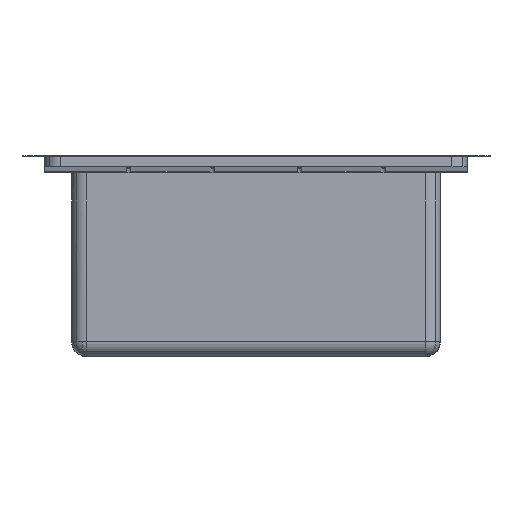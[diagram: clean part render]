
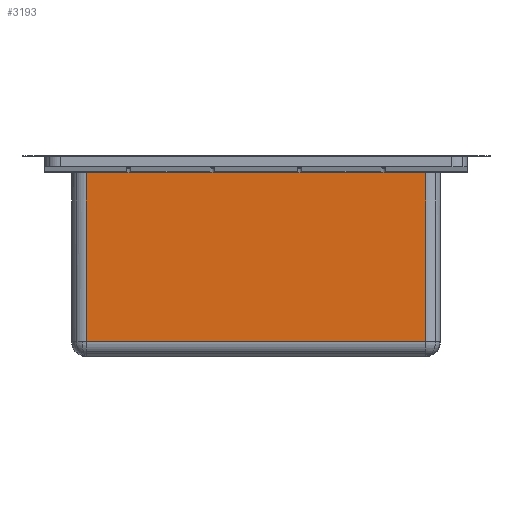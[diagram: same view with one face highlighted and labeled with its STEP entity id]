
A CAD part, left-side view. The second image highlights one B-rep face of the part: STEP entity #3193.
In plain terms, the highlighted planar face has unit normal (-1, 0, 0).
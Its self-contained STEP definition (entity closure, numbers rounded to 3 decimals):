
#2808=CARTESIAN_POINT('Line Origine',(-1529.582,11.709,1.2)) ;
#2812=CARTESIAN_POINT('Vertex',(-1529.582,-173.291,1.2)) ;
#2814=CARTESIAN_POINT('Vertex',(-1529.582,196.709,1.2)) ;
#3101=CARTESIAN_POINT('Vertex',(-1529.582,-173.291,-182.8)) ;
#3109=CARTESIAN_POINT('Line Origine',(-1529.582,-173.291,-98.8)) ;
#3170=CARTESIAN_POINT('Axis2P3D Location',(-1529.582,196.709,1.2)) ;
#3175=CARTESIAN_POINT('Line Origine',(-1529.582,11.709,-182.8)) ;
#3179=CARTESIAN_POINT('Vertex',(-1529.582,196.709,-182.8)) ;
#3182=CARTESIAN_POINT('Line Origine',(-1529.582,196.709,-90.8)) ;
#2809=DIRECTION('Vector Direction',(0.,-1.,0.)) ;
#3110=DIRECTION('Vector Direction',(0.,0.,-1.)) ;
#3171=DIRECTION('Axis2P3D Direction',(1.,0.,0.)) ;
#3172=DIRECTION('Axis2P3D XDirection',(0.,-1.,0.)) ;
#3176=DIRECTION('Vector Direction',(0.,-1.,0.)) ;
#3183=DIRECTION('Vector Direction',(0.,0.,1.)) ;
#3173=AXIS2_PLACEMENT_3D('Plane Axis2P3D',#3170,#3171,#3172) ;
#3188=ORIENTED_EDGE('',*,*,#3181,.F.) ;
#3189=ORIENTED_EDGE('',*,*,#3113,.F.) ;
#3190=ORIENTED_EDGE('',*,*,#2816,.T.) ;
#3191=ORIENTED_EDGE('',*,*,#3186,.T.) ;
#2810=VECTOR('Line Direction',#2809,1.) ;
#3111=VECTOR('Line Direction',#3110,1.) ;
#3177=VECTOR('Line Direction',#3176,1.) ;
#3184=VECTOR('Line Direction',#3183,1.) ;
#3193=ADVANCED_FACE('Vasca-CTP.2',(#3192),#3174,.F.) ;
#2816=EDGE_CURVE('',#2813,#2815,#2811,.F.) ;
#3113=EDGE_CURVE('',#2813,#3102,#3112,.T.) ;
#3181=EDGE_CURVE('',#3102,#3180,#3178,.F.) ;
#3186=EDGE_CURVE('',#2815,#3180,#3185,.F.) ;
#3187=EDGE_LOOP('',(#3188,#3189,#3190,#3191)) ;
#3192=FACE_OUTER_BOUND('',#3187,.T.) ;
#2811=LINE('Line',#2808,#2810) ;
#3112=LINE('Line',#3109,#3111) ;
#3178=LINE('Line',#3175,#3177) ;
#3185=LINE('Line',#3182,#3184) ;
#3174=PLANE('',#3173) ;
#2813=VERTEX_POINT('',#2812) ;
#2815=VERTEX_POINT('',#2814) ;
#3102=VERTEX_POINT('',#3101) ;
#3180=VERTEX_POINT('',#3179) ;
